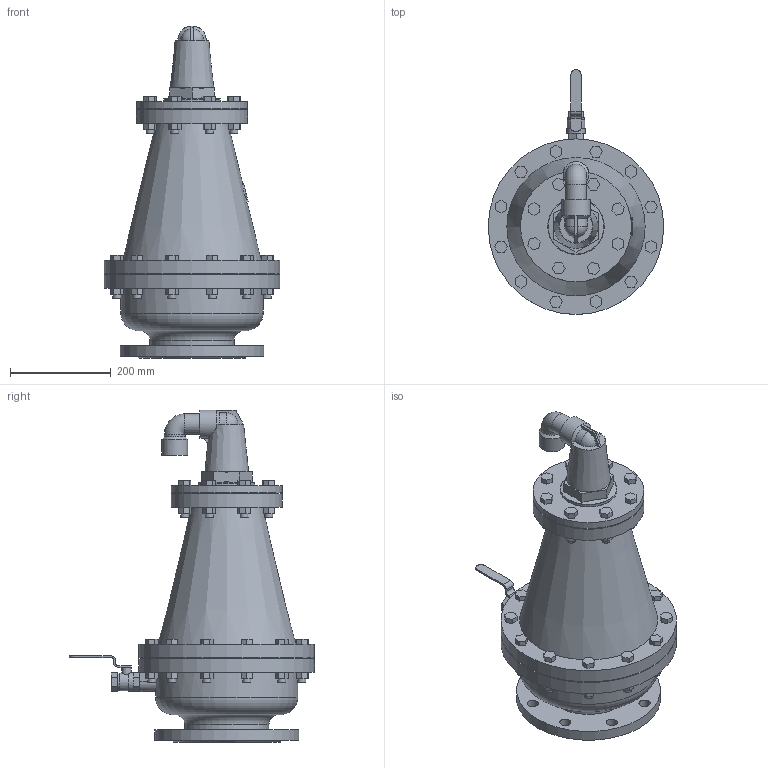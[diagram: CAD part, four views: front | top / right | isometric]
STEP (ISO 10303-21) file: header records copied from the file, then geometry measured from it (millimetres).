
FILE_DESCRIPTION(('STEP AP203'), '1');
FILE_NAME('A10FK_Dn150_左泱眄', '', ('UNSPECIFIED'), ('UNSPECIFIED'), 'ASCON STEP Converter 1.6', 'ASCON Math Kernel', '');
FILE_SCHEMA(('CONFIG_CONTROL_DESIGN'));
Length unit declared in the file: millimetre
Bounding box: 348 x 485.67 x 658 mm (x, y, z)
Volume: 9076302.1 mm3; surface area: 1172924.3 mm2
Topology: 1 solids, 2 shells, 602 faces, 1501 edges, 982 vertices
Faces by surface type: plane 473, cylinder 89, cone 33, torus 5, sphere 2
Full cylindrical faces by diameter (mm): 16 x20, 18 x1, 18.5 x1, 22 x8, 33 x1, 35 x1, 37 x1, 41 x2, 43 x1, 51 x1, 56 x1, 86 x1, 110 x1, 112 x1, 150 x1, 167 x1, 220 x2, 282 x1, 285 x1, 348 x2
Entity records: 23516 total; most frequent: CARTESIAN_POINT 4479, ORIENTED_EDGE 2826, DIRECTION 2804, EDGE_CURVE 1413, LINE 1136, VECTOR 1136, VERTEX_POINT 981, AXIS2_PLACEMENT_3D 834
